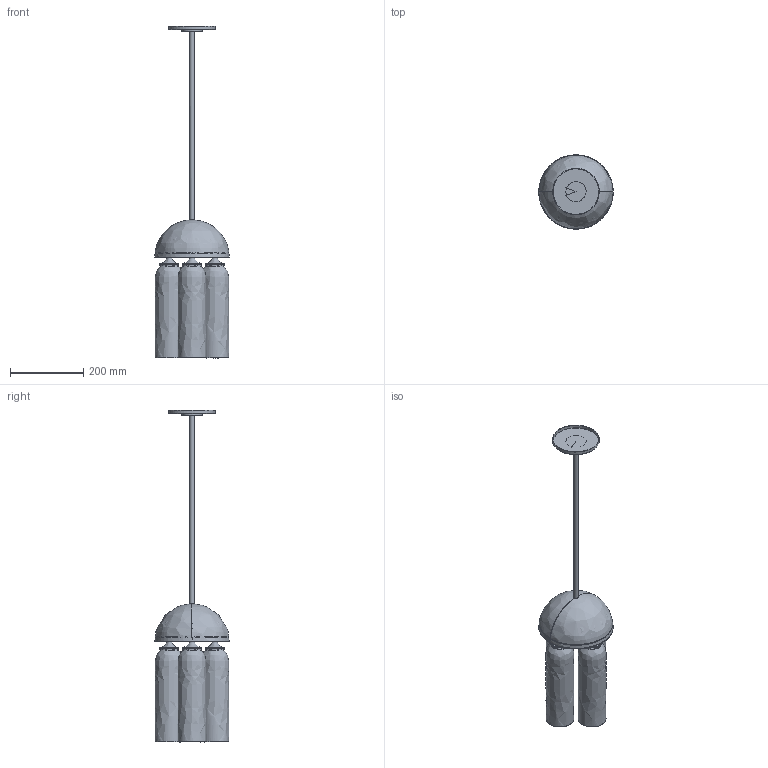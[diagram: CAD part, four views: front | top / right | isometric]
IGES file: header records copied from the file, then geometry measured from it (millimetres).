
Global section: file name: /Users/danielszollosi/Documents/SkLO/Sklo.com/3D models/WEB 3D Models/SkLO_AvroKO_CrownPendantShort_3D_LT633.igs; native system: Rhinoceros ( Dec  3 2024 ); preprocessor: Trout Lake IGES 012 Dec  3 2024; date: 250805.143859; units: millimetre
Bounding box: 203 x 202.97 x 905.49 mm (x, y, z)
Surface area: 810124.5 mm2 (no closed solid volume)
Topology: 0 solids, 0 shells, 262 faces, 1193 edges, 1038 vertices
Faces by surface type: bspline 262
